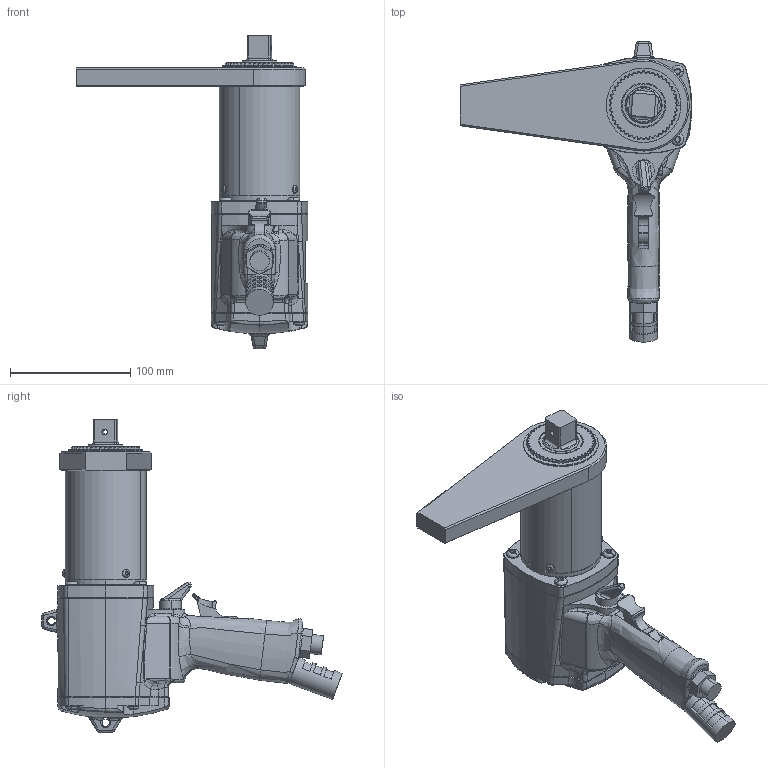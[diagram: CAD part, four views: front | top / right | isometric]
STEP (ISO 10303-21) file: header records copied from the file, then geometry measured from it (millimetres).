
FILE_DESCRIPTION (( 'STEP AP214' ), '1' );
FILE_NAME ('AAP1B66400A.STEP', '2014-12-06T00:34:22', ( 'AIMCO' ), ( '' ), 'SwSTEP 2.0', 'SolidWorks 2014', '' );
FILE_SCHEMA (( 'AUTOMOTIVE_DESIGN' ));
Length unit declared in the file: inch
Products named in the file (1): AAP1B66400A
Bounding box: 192.43 x 249.76 x 260.95 mm (x, y, z)
Surface area: 138555 mm2 (no closed solid volume)
Topology: 0 solids, 22 shells, 726 faces, 2990 edges, 2260 vertices
Faces by surface type: cylinder 228, plane 209, bspline 185, cone 67, torus 37
Entity records: 97214 total; most frequent: CARTESIAN_POINT 66125, ORIENTED_EDGE 4680, DIRECTION 3559, EDGE_CURVE 2977, VERTEX_POINT 2260, AXIS2_PLACEMENT_3D 1297, B_SPLINE_CURVE_WITH_KNOTS 1211, LINE 965
